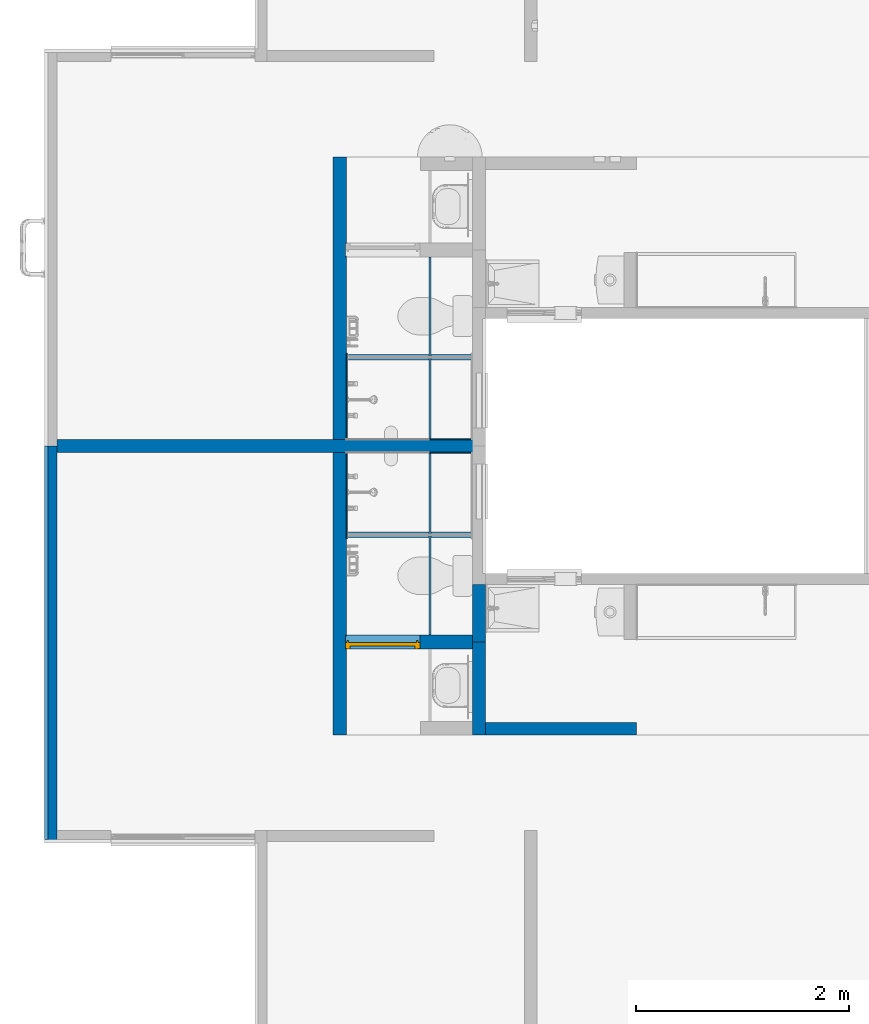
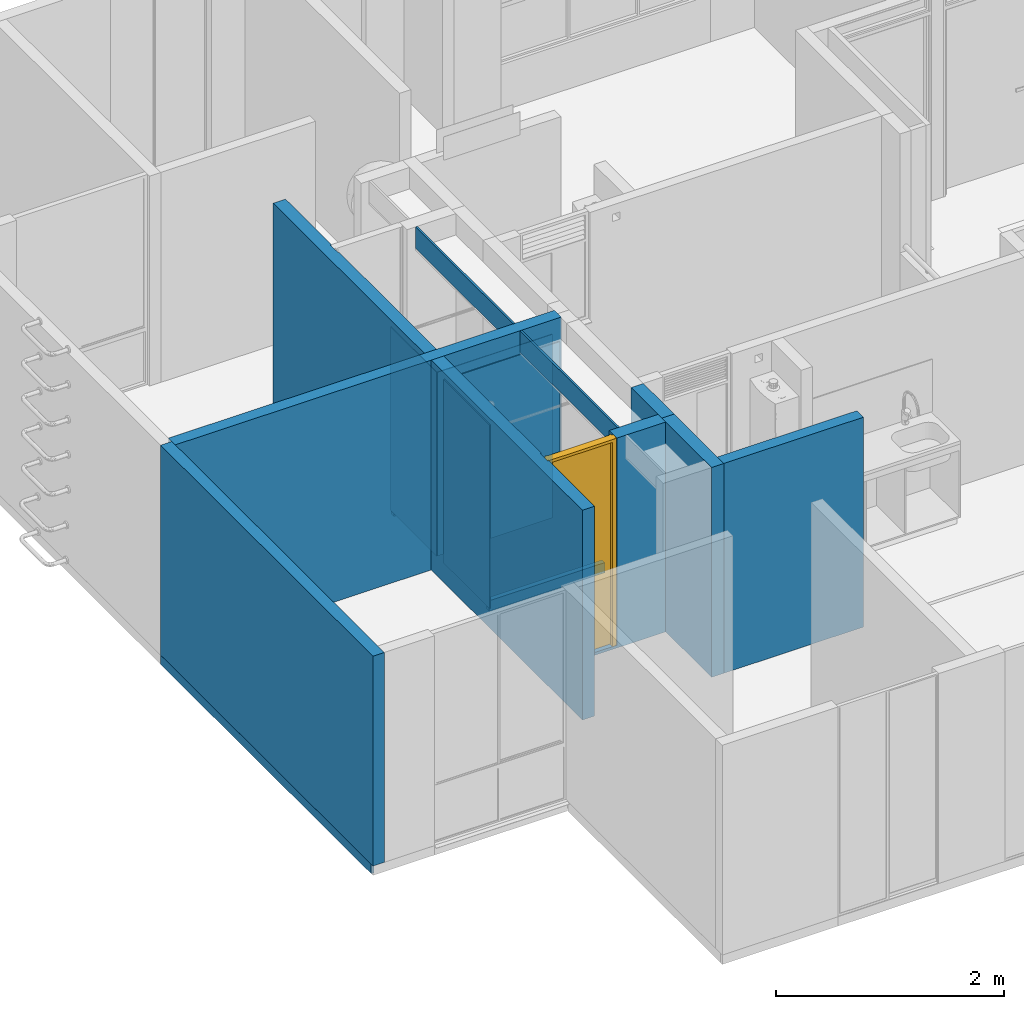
# One storey, part 7 of 51: 17 walls, 1 door, 3 openings.
"""IFC4 building model written with IfcOpenShell, lengths in metres."""

from ifc_helpers import new_model, entity, si_unit, converted_unit, derived_unit, direction, frame, origin, place, context, subcontext, project, spatial, indexed_curve, outline, extrude, polygons, source, transform, mapped, material, constituent, constituent_set, type_object, type_shapes, element, fill, save


model = new_model("IFC4")

# Units and contexts
model_context = context("Model", 3, precision=1e-05, world=origin(), true_north=direction((6.123031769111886e-17, 1.0)))
body_context = subcontext(model_context, "Body", "Model", "MODEL_VIEW")
ifc_project = project(units=[si_unit("LENGTHUNIT", "METRE"), si_unit("AREAUNIT", "SQUARE_METRE"), si_unit("VOLUMEUNIT", "CUBIC_METRE"), converted_unit("PLANEANGLEUNIT", "DEGREE", entity("IfcRatioMeasure", 0.017453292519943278), si_unit("PLANEANGLEUNIT", "RADIAN"), dimensions=[0, 0, 0, 0, 0, 0, 0]), si_unit("MASSUNIT", "GRAM", prefix="KILO"), derived_unit("MASSDENSITYUNIT", [(si_unit("MASSUNIT", "GRAM", prefix="KILO"), 1), (si_unit("LENGTHUNIT", "METRE"), -3)]), derived_unit("IONCONCENTRATIONUNIT", [(si_unit("MASSUNIT", "GRAM", prefix="KILO"), 1), (si_unit("LENGTHUNIT", "METRE"), -3)]), derived_unit("MOMENTOFINERTIAUNIT", [(si_unit("LENGTHUNIT", "METRE"), 4)]), si_unit("TIMEUNIT", "SECOND"), si_unit("FREQUENCYUNIT", "HERTZ"), si_unit("THERMODYNAMICTEMPERATUREUNIT", "DEGREE_CELSIUS"), derived_unit("THERMALTRANSMITTANCEUNIT", [(si_unit("MASSUNIT", "GRAM", prefix="KILO"), 1), (si_unit("THERMODYNAMICTEMPERATUREUNIT", "KELVIN"), -1), (si_unit("TIMEUNIT", "SECOND"), -3)]), derived_unit("THERMALCONDUCTANCEUNIT", [(si_unit("MASSUNIT", "GRAM", prefix="KILO"), 1), (si_unit("THERMODYNAMICTEMPERATUREUNIT", "KELVIN"), -1), (si_unit("TIMEUNIT", "SECOND"), -3), (si_unit("LENGTHUNIT", "METRE"), 1)]), derived_unit("VOLUMETRICFLOWRATEUNIT", [(si_unit("LENGTHUNIT", "METRE"), 3), (si_unit("TIMEUNIT", "SECOND"), -1)]), derived_unit("MASSFLOWRATEUNIT", [(si_unit("MASSUNIT", "GRAM", prefix="KILO"), 1), (si_unit("TIMEUNIT", "SECOND"), -1)]), derived_unit("ROTATIONALFREQUENCYUNIT", [(si_unit("TIMEUNIT", "SECOND"), -1)]), si_unit("ELECTRICCURRENTUNIT", "AMPERE"), si_unit("ELECTRICVOLTAGEUNIT", "VOLT"), si_unit("POWERUNIT", "WATT"), si_unit("FORCEUNIT", "NEWTON", prefix="KILO"), si_unit("ILLUMINANCEUNIT", "LUX"), si_unit("LUMINOUSFLUXUNIT", "LUMEN"), si_unit("LUMINOUSINTENSITYUNIT", "CANDELA"), derived_unit("USERDEFINED", [(si_unit("MASSUNIT", "GRAM", prefix="KILO"), -1), (si_unit("LENGTHUNIT", "METRE"), -2), (si_unit("TIMEUNIT", "SECOND"), 3), (si_unit("LUMINOUSFLUXUNIT", "LUMEN"), 1)]), derived_unit("USERDEFINED", [(si_unit("MASSUNIT", "GRAM", prefix="KILO"), 1), (si_unit("TIMEUNIT", "SECOND"), -3), (si_unit("LENGTHUNIT", "METRE"), 3), (si_unit("ELECTRICCURRENTUNIT", "AMPERE"), -2)]), derived_unit("SOUNDPOWERUNIT", [(si_unit("MASSUNIT", "GRAM", prefix="KILO"), 1), (si_unit("TIMEUNIT", "SECOND"), -3), (si_unit("LENGTHUNIT", "METRE"), 2)]), derived_unit("SOUNDPRESSUREUNIT", [(si_unit("MASSUNIT", "GRAM", prefix="KILO"), 1), (si_unit("LENGTHUNIT", "METRE"), -1), (si_unit("TIMEUNIT", "SECOND"), -2)]), derived_unit("LINEARVELOCITYUNIT", [(si_unit("LENGTHUNIT", "METRE"), 1), (si_unit("TIMEUNIT", "SECOND"), -1)]), si_unit("PRESSUREUNIT", "PASCAL"), derived_unit("USERDEFINED", [(si_unit("MASSUNIT", "GRAM", prefix="KILO"), 1), (si_unit("LENGTHUNIT", "METRE"), -2), (si_unit("TIMEUNIT", "SECOND"), -2)]), derived_unit("LINEARFORCEUNIT", [(si_unit("MASSUNIT", "GRAM", prefix="KILO"), 1), (si_unit("TIMEUNIT", "SECOND"), -2)]), derived_unit("PLANARFORCEUNIT", [(si_unit("MASSUNIT", "GRAM", prefix="KILO"), 1), (si_unit("LENGTHUNIT", "METRE"), -1), (si_unit("TIMEUNIT", "SECOND"), -2)]), derived_unit("SPECIFICHEATCAPACITYUNIT", [(si_unit("THERMODYNAMICTEMPERATUREUNIT", "KELVIN"), -1), (si_unit("LENGTHUNIT", "METRE"), 2), (si_unit("TIMEUNIT", "SECOND"), -2)]), derived_unit("HEATINGVALUEUNIT", [(si_unit("LENGTHUNIT", "METRE"), 2), (si_unit("TIMEUNIT", "SECOND"), -2)]), derived_unit("VAPORPERMEABILITYUNIT", [(si_unit("LENGTHUNIT", "METRE"), -1), (si_unit("TIMEUNIT", "SECOND"), 1)]), derived_unit("DYNAMICVISCOSITYUNIT", [(si_unit("MASSUNIT", "GRAM", prefix="KILO"), 1), (si_unit("TIMEUNIT", "SECOND"), -1), (si_unit("LENGTHUNIT", "METRE"), -1)]), derived_unit("THERMALEXPANSIONCOEFFICIENTUNIT", [(si_unit("THERMODYNAMICTEMPERATUREUNIT", "KELVIN"), -1)]), derived_unit("MODULUSOFELASTICITYUNIT", [(si_unit("MASSUNIT", "GRAM", prefix="KILO"), 1), (si_unit("LENGTHUNIT", "METRE"), -1), (si_unit("TIMEUNIT", "SECOND"), -2)]), derived_unit("ISOTHERMALMOISTURECAPACITYUNIT", [(si_unit("LENGTHUNIT", "METRE"), 3), (si_unit("MASSUNIT", "GRAM", prefix="KILO"), -1)]), derived_unit("MOISTUREDIFFUSIVITYUNIT", [(si_unit("TIMEUNIT", "SECOND"), -1), (si_unit("LENGTHUNIT", "METRE"), 2)])], contexts=[model_context])

# Site, building, storey
site_placement = place(None, origin())
site = spatial("IfcSite", under=ifc_project, at=site_placement, Name="Default", CompositionType="ELEMENT")
building_placement = place(site_placement, origin())
building = spatial("IfcBuilding", under=site, at=building_placement, CompositionType="ELEMENT")
storey_placement = place(building_placement, frame((0.0, 0.0, 2.350000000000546)))
storey = spatial("IfcBuildingStorey", under=building, at=storey_placement, Name="Nivel 2", CompositionType="ELEMENT", Elevation=2.350000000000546)

# Walls
ifc_material_1 = material(Name="Concreto (Aire)", Category="Materials")
wall_type_1 = type_object("IfcWallType", Name="Basic Wall:B2010 - 0.12m - Muro interior en concreto", PredefinedType="STANDARD")
wall_1_placement = place(storey_placement, frame((0.057499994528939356, -6.425000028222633, 0.0)))
element("IfcWall", 1, at=wall_1_placement, inside=storey, type_object=wall_type_1, material=ifc_material_1, Name="Basic Wall:B2010 - 0.12m - Muro interior en concreto", ObjectType="Basic Wall:B2010 - 0.12m - Muro interior en concreto", PredefinedType="NOTDEFINED", context=body_context, shape_type="SweptSolid", body=[
    extrude(outline(indexed_curve([(3.915, 0.06000000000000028), (-2.183027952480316e-18, 0.060000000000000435), (2.183027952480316e-18, -0.060000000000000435), (3.915, -0.06000000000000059), (3.915, 0.06000000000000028)], self_intersect=False)), origin(), (0.0, 0.0, 1.0), 2.2500000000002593),
])
ifc_material_2 = material(Name="Ladrillo claro (Aire)", Category="Materials")
wall_type_2 = type_object("IfcWallType", Name="Basic Wall:B2010 - 0.115m - Muro exterior en mampostería - Ladrillo", PredefinedType="STANDARD")
wall_2_placement = place(storey_placement, frame((0.0, -10.15500002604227, 0.0), z_axis=(0.0, 0.0, 1.0), x_axis=(0.0, 1.0, 0.0)))
element("IfcWall", 2, at=wall_2_placement, inside=storey, type_object=wall_type_2, material=ifc_material_2, Name="Basic Wall:B2010 - 0.115m - Muro exterior en mampostería - Ladrillo", ObjectType="Basic Wall:B2010 - 0.115m - Muro exterior en mampostería - Ladrillo", PredefinedType="NOTDEFINED", context=body_context, shape_type="SweptSolid", body=[
    extrude(outline(indexed_curve([(3.7299999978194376, 0.0575), (-4.594741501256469e-16, 0.0575), (4.594741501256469e-16, -0.0575), (3.7299999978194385, -0.0575), (3.7299999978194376, 0.0575)], self_intersect=False)), origin(), (0.0, 0.0, 1.0), 2.2500000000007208),
])
wall_type_3 = type_object("IfcWallType", Name="Basic Wall:B2010 - 0.115m - Muro interior en mampostería - Ladrillo", PredefinedType="STANDARD")
wall_3_placement = place(storey_placement, frame((4.087499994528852, -9.082499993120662, 0.0)))
element("IfcWall", 3, at=wall_3_placement, inside=storey, type_object=wall_type_3, material=ifc_material_2, Name="Basic Wall:B2010 - 0.115m - Muro interior en mampostería - Ladrillo", ObjectType="Basic Wall:B2010 - 0.115m - Muro interior en mampostería - Ladrillo", PredefinedType="NOTDEFINED", context=body_context, shape_type="SweptSolid", body=[
    extrude(outline(indexed_curve([(1.414999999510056, 0.05749999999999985), (-1.7283953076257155e-16, 0.057499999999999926), (1.7283953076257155e-16, -0.057499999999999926), (1.4149999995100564, -0.0575), (1.414999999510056, 0.05749999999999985)], self_intersect=False)), origin(), (0.0, 0.0, 1.0), 2.2499999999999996),
])

# Wall, opening
ifc_material_3 = material(Name="Pañete", Category="Materials")
ifc_constituent_1 = constituent(ifc_material_3, Name="Pañete", Category="Materials")
ifc_constituent_2 = constituent(ifc_material_2, Name="Ladrillo claro (Aire)", Category="Materials")
ifc_constituent_set_1 = constituent_set(constituents=[ifc_constituent_1, ifc_constituent_2], Name="Basic Wall:B2010 - 0.115m - Muro interior en mampostería - Ladrillo + Pañete")
wall_type_4 = type_object("IfcWallType", Name="Basic Wall:B2010 - 0.115m - Muro interior en mampostería - Ladrillo + Pañete", PredefinedType="STANDARD", material=ifc_constituent_set_1)
wall_4_placement = place(storey_placement, frame((2.7150010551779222, -3.7100000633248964, 0.0), z_axis=(0.0, 0.0, 1.0), x_axis=(0.0, -1.0, 0.0)))
wall_4 = element("IfcWall", 4, at=wall_4_placement, inside=storey, type_object=wall_type_4, material=ifc_constituent_set_1, Name="Basic Wall:B2010 - 0.115m - Muro interior en mampostería - Ladrillo + Pañete", ObjectType="Basic Wall:B2010 - 0.115m - Muro interior en mampostería - Ladrillo + Pañete", PredefinedType="NOTDEFINED", context=body_context, shape_type="SweptSolid", body=[
    extrude(outline(indexed_curve([(-1.132499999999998, -1.0999999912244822), (1.1175000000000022, -1.0999999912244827), (1.1174999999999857, -0.294999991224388), (-1.1024999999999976, -0.29499999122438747), (-1.1024999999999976, -0.15999999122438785), (1.1175000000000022, -0.1599999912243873), (1.1175000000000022, 1.5549999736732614), (-1.132499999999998, 1.5549999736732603), (-1.132499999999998, -1.0999999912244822)], self_intersect=False)), frame((1.0999999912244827, 0.0524999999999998, 1.1324999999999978), z_axis=(0.0, 1.0, 0.0), x_axis=(0.0, 0.0, 1.0)), (0.0, 0.0, 1.0), 0.009999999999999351),
    extrude(outline(indexed_curve([(-0.05750000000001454, -1.3274999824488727), (0.05749999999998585, -1.3274999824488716), (0.05750000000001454, 1.327499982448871), (-0.057499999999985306, 1.3274999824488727), (-0.05750000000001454, -1.3274999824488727)], self_intersect=False)), frame((1.3274999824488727, -0.005000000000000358, 0.0), z_axis=(0.0, 0.0, 1.0), x_axis=(0.0, 1.0, 0.0)), (0.0, 0.0, 1.0), 2.25),
])
opening_1_placement = place(wall_4_placement, origin())
element("IfcOpeningElement", 5, at=opening_1_placement, cuts=wall_4, Name="Basic Wall:B2010 - 0.115m - Muro interior en mampostería - Ladrillo + Pañete", PredefinedType="OPENING", context=body_context, shape_type="SweptSolid", body=[
    extrude(outline(indexed_curve([(-0.06749999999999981, -1.1099999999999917), (0.06750000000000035, -1.1099999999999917), (0.06750000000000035, 1.1099999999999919), (-0.06749999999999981, 1.1099999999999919), (-0.06749999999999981, -1.1099999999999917)], self_intersect=False)), frame((0.8725000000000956, 0.05249999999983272, 1.139999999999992), z_axis=(0.0, 1.0, 0.0), x_axis=(-1.0, 0.0, 0.0)), (0.0, 0.0, 1.0), 0.7000000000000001),
])

wall_5_placement = place(storey_placement, frame((2.715001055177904, -9.139999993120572, 0.0), z_axis=(0.0, 0.0, 1.0), x_axis=(0.0, 1.0, 0.0)))
wall_5 = element("IfcWall", 6, at=wall_5_placement, inside=storey, type_object=wall_type_4, material=ifc_constituent_set_1, Name="Basic Wall:B2010 - 0.115m - Muro interior en mampostería - Ladrillo + Pañete", ObjectType="Basic Wall:B2010 - 0.115m - Muro interior en mampostería - Ladrillo + Pañete", PredefinedType="NOTDEFINED", context=body_context, shape_type="SweptSolid", body=[
    extrude(outline(indexed_curve([(-1.132499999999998, -1.5549999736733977), (1.1175000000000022, -1.5549999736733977), (1.1174999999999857, 0.1599999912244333), (-1.1024999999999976, 0.15999999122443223), (-1.1024999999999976, 0.29499999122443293), (1.1175000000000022, 0.2949999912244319), (1.1175000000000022, 1.0999999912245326), (-1.132499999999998, 1.0999999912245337), (-1.132499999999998, -1.5549999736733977)], self_intersect=False)), frame((1.0999999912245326, -0.05249999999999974, 1.1324999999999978), z_axis=(0.0, -1.0, 0.0), x_axis=(0.0, 0.0, 1.0)), (0.0, 0.0, 1.0), 0.009999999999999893),
    extrude(outline(indexed_curve([(-0.05750000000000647, -1.3274999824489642), (0.057499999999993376, -1.3274999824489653), (0.05750000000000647, 1.3274999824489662), (-0.057499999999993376, 1.3274999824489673), (-0.05750000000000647, -1.3274999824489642)], self_intersect=False)), frame((1.3274999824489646, 0.004999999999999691, 0.0), z_axis=(0.0, 0.0, 1.0), x_axis=(0.0, -1.0, 0.0)), (0.0, 0.0, 1.0), 2.25),
])
opening_2_placement = place(wall_5_placement, origin())
element("IfcOpeningElement", 7, at=opening_2_placement, cuts=wall_5, Name="Basic Wall:B2010 - 0.115m - Muro interior en mampostería - Ladrillo + Pañete", PredefinedType="OPENING", context=body_context, shape_type="SweptSolid", body=[
    extrude(outline(indexed_curve([(-0.06749999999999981, -1.1099999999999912), (0.06749999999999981, -1.1099999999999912), (0.06749999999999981, 1.1099999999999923), (-0.06749999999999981, 1.109999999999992), (-0.06749999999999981, -1.1099999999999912)], self_intersect=False)), frame((0.8725000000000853, -0.7524999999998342, 1.1399999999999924), z_axis=(0.0, 1.0, 0.0), x_axis=(1.0, 0.0, 0.0)), (0.0, 0.0, 1.0), 0.7000000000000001),
])

# Wall, opening, door
ifc_constituent_3 = constituent(ifc_material_3, Name="Pañete", Category="Materials")
ifc_material_4 = material(Name="LADRILLO CLARO", Category="Materials")
ifc_constituent_4 = constituent(ifc_material_4, Name="LADRILLO CLARO", Category="Materials")
ifc_constituent_5 = constituent(ifc_material_3, Name="Pañete (2)", Category="Materials")
ifc_constituent_set_2 = constituent_set(constituents=[ifc_constituent_3, ifc_constituent_4, ifc_constituent_5], Name="Basic Wall:B2010 - 0.115m - MI  mampostería no estructural - Pañete + Ladrillo + Pañete")
wall_type_5 = type_object("IfcWallType", Name="Basic Wall:B2010 - 0.115m - MI  mampostería no estructural - Pañete + Ladrillo + Pañete", PredefinedType="STANDARD", material=ifc_constituent_set_2)
wall_6_placement = place(storey_placement, frame((3.9624999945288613, -8.26749999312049, 0.0), z_axis=(0.0, 0.0, 1.0), x_axis=(-1.0, 0.0, 0.0)))
wall_6 = element("IfcWall", 8, at=wall_6_placement, inside=storey, type_object=wall_type_5, material=ifc_constituent_set_2, Name="Basic Wall:B2010 - 0.115m - MI  mampostería no estructural - Pañete + Ladrillo + Pañete", ObjectType="Basic Wall:B2010 - 0.115m - MI  mampostería no estructural - Pañete + Ladrillo + Pañete", PredefinedType="NOTDEFINED", context=body_context, shape_type="SweptSolid", body=[
    extrude(outline(indexed_curve([(-0.7600000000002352, -0.6249996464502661), (-0.7300000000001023, -0.6249996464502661), (-0.7300000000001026, 0.06500035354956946), (1.4900000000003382, 0.06500035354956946), (1.4900000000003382, 0.559999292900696), (-0.7600000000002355, 0.5599992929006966), (-0.7600000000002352, -0.6249996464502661)], self_intersect=False)), frame((0.5599992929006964, -0.057499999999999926, 0.7600000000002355), z_axis=(0.0, -1.0, 0.0), x_axis=(0.0, 0.0, 1.0)), (0.0, 0.0, 1.0), 0.009999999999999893),
    extrude(outline(indexed_curve([(-1.1325000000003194, -0.6649994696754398), (-1.1025000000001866, -0.6649994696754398), (-1.1025000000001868, 0.02500053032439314), (1.1175000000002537, 0.02500053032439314), (1.1175000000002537, 0.10999946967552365), (1.1175000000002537, 0.12999946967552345), (1.1175000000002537, 0.5199994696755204), (-1.1325000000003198, 0.5199994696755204), (-1.1325000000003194, -0.6649994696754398)], self_intersect=False)), frame((0.5199994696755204, 0.06749999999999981, 1.1325000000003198), z_axis=(0.0, -1.0, 0.0), x_axis=(0.0, 0.0, 1.0)), (0.0, 0.0, 1.0), 0.009999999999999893),
    extrude(outline(indexed_curve([(-0.7600000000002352, -0.6316663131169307), (-0.7300000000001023, -0.6316663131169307), (-0.7300000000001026, 0.06833368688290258), (1.4900000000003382, 0.06833368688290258), (1.4900000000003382, 0.5633326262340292), (-0.7600000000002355, 0.5633326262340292), (-0.7600000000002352, -0.6316663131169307)], self_intersect=False)), frame((0.5633326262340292, 0.057499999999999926, 0.7600000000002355), z_axis=(0.0, -1.0, 0.0), x_axis=(0.0, 0.0, 1.0)), (0.0, 0.0, 1.0), 0.11499999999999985),
])
opening_3_placement = place(wall_6_placement, frame((1.1949989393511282, 0.06749999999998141, 0.030000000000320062)))
opening_3 = element("IfcOpeningElement", 9, at=opening_3_placement, cuts=wall_6, Name="C1030 - Puerta batiente - Madera+Aluminio:C1030 - 0.70 x 2.22 - Puerta batiente - Madera+ Metal:1", PredefinedType="OPENING", context=body_context, shape_type="SweptSolid", body=[
    extrude(outline(indexed_curve([(1.438182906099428e-16, 0.7000000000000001), (1.438182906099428e-16, 0.0), (2.2199999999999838, 0.0), (2.2199999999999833, 0.7000000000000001), (1.438182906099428e-16, 0.7000000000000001)], self_intersect=False)), frame((0.0, 0.0, 0.0), z_axis=(0.0, -1.0, 0.0), x_axis=(0.0, 0.0, 1.0)), (0.0, 0.0, 1.0), 0.13499999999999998),
])
ifc_material_5 = material(Name="<Unnamed>")
door_type = type_object("IfcDoorType", Name="C1030 - Puerta batiente - Madera+Aluminio:C1030 - 0.70 x 2.22 - Puerta batiente - Madera+ Metal", OperationType="SINGLE_SWING_LEFT", PredefinedType="DOOR", material=ifc_material_5)
shared_shape = source(origin(), body_context, "Body", "Tessellation", [
    polygons([(0.6699999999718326, 0.06499999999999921, 0.009880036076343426), (0.6699999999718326, 0.0324999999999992, 0.009880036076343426), (0.030000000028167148, 0.0324999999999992, 0.009880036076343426), (0.030000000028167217, 0.06499999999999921, 0.009880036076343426), (0.6699999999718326, 0.06499999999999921, 2.2050000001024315), (0.6699999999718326, 0.0324999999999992, 2.2050000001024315), (0.030000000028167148, 0.0324999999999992, 2.2050000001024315), (0.030000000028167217, 0.06499999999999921, 2.2050000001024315)], [[[1, 2, 3, 4]], [[5, 6, 2, 1]], [[6, 7, 3, 2]], [[7, 8, 4, 3]], [[8, 5, 1, 4]], [[5, 8, 7, 6]]], closed=True),
    polygons([(0.6849999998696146, 0.0649999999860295, 0.0), (0.7, 0.0649999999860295, 0.0), (0.7, 0.0074999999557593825, 0.0), (0.6849999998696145, 0.007499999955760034, 0.0), (0.6849999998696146, -5.075939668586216e-17, 0.0), (0.6549999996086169, -1.6919798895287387e-17, 0.0), (0.6549999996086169, 0.04000000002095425, 0.0), (0.6699999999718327, 0.04000000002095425, 0.0), (0.6699999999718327, 0.07999999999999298, 0.0), (0.6849999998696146, 0.07999999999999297, 0.0), (0.7, 0.0074999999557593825, 2.2199999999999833), (0.6849999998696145, 0.007499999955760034, 2.2199999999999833), (0.6849999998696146, 0.0649999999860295, 2.2199999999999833), (0.7, 0.0649999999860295, 2.2199999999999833), (0.015000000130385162, 0.06499999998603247, 0.0), (0.015000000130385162, 0.07999999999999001, 0.0), (0.030000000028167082, 0.07999999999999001, 0.0), (0.030000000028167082, 0.04000000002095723, 0.0), (0.04500000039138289, 0.04000000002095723, 0.0), (0.04500000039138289, 0.0, 0.0), (0.01500000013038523, 0.0, 0.0), (0.015000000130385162, 0.007499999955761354, 0.0), (0.0, 0.007499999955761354, 0.0), (0.0, 0.06499999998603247, 0.0), (0.0, 0.06499999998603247, 2.2199999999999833), (0.015000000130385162, 0.06499999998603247, 2.2199999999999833), (0.015000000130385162, 0.007499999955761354, 2.2199999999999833), (0.0, 0.007499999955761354, 2.2199999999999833), (0.04500000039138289, 0.04000000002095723, 2.2050000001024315), (0.04500000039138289, 0.03250000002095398, 2.2050000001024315), (0.04500000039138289, 0.03250000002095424, 2.189999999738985), (0.04500000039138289, 0.0, 2.189999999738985), (0.6549999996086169, -1.6919798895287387e-17, 2.189999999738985), (0.6549999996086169, 0.032500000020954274, 2.189999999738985), (0.6549999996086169, 0.03250000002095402, 2.2050000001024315), (0.6549999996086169, 0.04000000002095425, 2.2050000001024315), (0.030000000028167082, 0.07999999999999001, 2.2199999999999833), (0.030000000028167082, 0.07249999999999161, 2.2199999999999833), (0.030000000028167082, 0.07249999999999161, 2.2050000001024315), (0.030000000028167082, 0.04000000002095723, 2.2050000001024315), (0.6699999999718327, 0.04000000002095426, 2.2050000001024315), (0.6699999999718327, 0.07249999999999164, 2.2050000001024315), (0.6699999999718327, 0.07249999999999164, 2.2199999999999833), (0.6699999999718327, 0.07999999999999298, 2.2199999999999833), (0.015000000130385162, 0.07999999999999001, 2.2199999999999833), (0.6849999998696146, -5.075939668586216e-17, 2.2199999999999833), (0.01500000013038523, 0.0, 2.2199999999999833), (0.6849999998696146, 0.07999999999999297, 2.2199999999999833)], [[[1, 2, 3, 4, 5, 6, 7, 8, 9, 10]], [[11, 12, 4, 3]], [[13, 14, 2, 1]], [[15, 16, 17, 18, 19, 20, 21, 22, 23, 24]], [[25, 26, 15, 24]], [[27, 28, 23, 22]], [[20, 19, 29, 30, 31, 32]], [[7, 6, 33, 34, 35, 36]], [[18, 17, 37, 38, 39, 40]], [[9, 8, 41, 42, 43, 44]], [[28, 25, 24, 23]], [[14, 11, 3, 2]], [[26, 45, 16, 15]], [[45, 37, 17, 16]], [[19, 18, 40, 29]], [[21, 20, 32, 33, 6, 5, 46, 47]], [[47, 27, 22, 21]], [[12, 46, 5, 4]], [[48, 13, 1, 10]], [[26, 25, 28, 27, 47, 46, 12, 11, 14, 13, 48, 44, 43, 38, 37, 45]], [[39, 42, 41, 36, 35, 30, 29, 40]], [[33, 32, 31, 34]], [[8, 7, 36, 41]], [[44, 48, 10, 9]], [[34, 31, 30, 35]], [[42, 39, 38, 43]]], closed=True),
])
type_shapes(door_type, [shared_shape])
door_placement = place(opening_3_placement, frame((0.0, 0.0, 0.0), z_axis=(0.0, 0.0, 1.0), x_axis=(-1.0, 0.0, 0.0)))
door = element("IfcDoor", 10, at=door_placement, inside=storey, type_object=door_type, material=ifc_material_5, Name="C1030 - Puerta batiente - Madera+Aluminio:C1030 - 0.70 x 2.22 - Puerta batiente - Madera+ Metal", ObjectType="C1030 - Puerta batiente - Madera+Aluminio:C1030 - 0.70 x 2.22 - Puerta batiente - Madera+ Metal", OperationType="SINGLE_SWING_LEFT", OverallHeight=2.2199999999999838, OverallWidth=0.7000000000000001, PredefinedType="DOOR", context=body_context, shape_type="MappedRepresentation", body=[
    mapped(shared_shape, transform((0.0, 0.0, 0.0), scale=1.0)),
])
fill(opening_3, door)

# Walls
ifc_material_6 = material(Name="Pañete, estuco y pintura", Category="Materials")
ifc_constituent_6 = constituent(ifc_material_6, Name="Pañete, estuco y pintura", Category="Materials")
ifc_constituent_7 = constituent(ifc_material_2, Name="Ladrillo claro (Aire)", Category="Materials")
ifc_constituent_set_3 = constituent_set(constituents=[ifc_constituent_6, ifc_constituent_7], Name="Basic Wall:B2010 - 0.115m - Muro interior en mampostería - Ladrillo + Pañete+ estuco+ pintura")
wall_type_6 = type_object("IfcWallType", Name="Basic Wall:B2010 - 0.115m - Muro interior en mampostería - Ladrillo + Pañete+ estuco+ pintura", PredefinedType="STANDARD", material=ifc_constituent_set_3)
wall_7_placement = place(storey_placement, frame((4.024999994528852, -9.13999999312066, 0.0), z_axis=(0.0, 0.0, 1.0), x_axis=(0.0, 1.0, 0.0)))
element("IfcWall", 11, at=wall_7_placement, inside=storey, type_object=wall_type_6, material=ifc_constituent_set_3, Name="Basic Wall:B2010 - 0.115m - Muro interior en mampostería - Ladrillo + Pañete+ estuco+ pintura", ObjectType="Basic Wall:B2010 - 0.115m - Muro interior en mampostería - Ladrillo + Pañete+ estuco+ pintura", PredefinedType="NOTDEFINED", context=body_context, shape_type="SweptSolid", body=[
    extrude(outline(indexed_curve([(-0.3591666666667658, -0.003333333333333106), (0.32083333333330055, -0.0033333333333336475), (0.44583333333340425, -0.003333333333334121), (0.4458333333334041, 0.006666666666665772), (-0.4266666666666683, 0.006666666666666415), (-0.42666666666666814, -0.0033333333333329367), (-0.3591666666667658, -0.003333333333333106)], self_intersect=False)), frame((0.44583333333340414, 0.059166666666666, 0.0), z_axis=(0.0, 0.0, 1.0), x_axis=(-1.0, 0.0, 0.0)), (0.0, 0.0, 1.0), 2.2499999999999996),
    extrude(outline(indexed_curve([(-0.25700000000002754, -0.046000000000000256), (0.5005000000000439, -0.046000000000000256), (0.5005000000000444, 0.06900000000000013), (-0.372000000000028, 0.0690000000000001), (-0.37200000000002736, -0.045999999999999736), (-0.25700000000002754, -0.046000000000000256)], self_intersect=False)), frame((0.37200000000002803, -0.01650000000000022, 0.0)), (0.0, 0.0, 1.0), 2.2499999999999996),
])
wall_8_placement = place(storey_placement, frame((4.024999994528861, -8.267499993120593, 0.0), z_axis=(0.0, 0.0, 1.0), x_axis=(0.0, 1.0, 0.0)))
element("IfcWall", 12, at=wall_8_placement, inside=storey, type_object=wall_type_6, material=ifc_constituent_set_3, Name="Basic Wall:B2010 - 0.115m - Muro interior en mampostería - Ladrillo + Pañete+ estuco+ pintura", ObjectType="Basic Wall:B2010 - 0.115m - Muro interior en mampostería - Ladrillo + Pañete+ estuco+ pintura", PredefinedType="NOTDEFINED", context=body_context, shape_type="SweptSolid", body=[
    extrude(outline(indexed_curve([(0.16280569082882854, -0.004000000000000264), (0.23030569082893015, -0.004000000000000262), (0.23030569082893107, 0.0059999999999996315), (-0.3117085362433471, 0.00599999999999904), (-0.31170853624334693, -0.004000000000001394), (0.16280569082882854, -0.004000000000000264)], self_intersect=False)), frame((0.23030569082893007, 0.058499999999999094, 0.0), z_axis=(0.0, 0.0, 1.0), x_axis=(-1.0, 0.0, 0.0)), (0.0, 0.0, 1.0), 2.2499999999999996),
    extrude(outline(indexed_curve([(-0.12467143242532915, -0.03833333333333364), (-0.0906714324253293, -0.03833333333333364), (0.32484282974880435, -0.03833333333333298), (0.3248428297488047, 0.07666666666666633), (-0.21717139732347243, 0.07666666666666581), (-0.21717139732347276, -0.03833333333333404), (-0.12467143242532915, -0.03833333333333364)], self_intersect=False)), frame((0.2171713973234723, -0.024166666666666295, 0.0)), (0.0, 0.0, 1.0), 2.2499999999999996),
])
ifc_material_7 = material(Name="Ceramica 0.25m x 0.35m", Category="Materials")
wall_type_7 = type_object("IfcWallType", Name="Basic Wall:C2010 - 0.25 x 0.35 - Enchape cerámico", PredefinedType="STANDARD")
wall_9_placement = place(storey_placement, frame((2.7825010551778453, -6.365000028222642, 0.030000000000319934), z_axis=(0.0, 0.0, 1.0), x_axis=(0.0, 1.0, 0.0)))
element("IfcWall", 13, at=wall_9_placement, inside=storey, type_object=wall_type_7, material=ifc_material_7, Name="Basic Wall:C2010 - 0.25 x 0.35 - Enchape cerámico", ObjectType="Basic Wall:C2010 - 0.25 x 0.35 - Enchape cerámico", PredefinedType="NOTDEFINED", context=body_context, shape_type="SweptSolid", body=[
    extrude(outline(indexed_curve([(0.8099999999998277, 0.00500000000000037), (-3.269267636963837e-17, 0.004999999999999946), (3.269267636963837e-17, -0.004999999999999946), (0.8099999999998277, -0.004999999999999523), (0.8099999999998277, 0.00500000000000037)], self_intersect=False)), origin(), (0.0, 0.0, 1.0), 1.9699999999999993),
])
wall_10_placement = place(storey_placement, frame((2.787501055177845, -6.360000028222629, 0.03000000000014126)))
element("IfcWall", 14, at=wall_10_placement, inside=storey, type_object=wall_type_7, material=ifc_material_7, Name="Basic Wall:C2010 - 0.25 x 0.35 - Enchape cerámico", ObjectType="Basic Wall:C2010 - 0.25 x 0.35 - Enchape cerámico", PredefinedType="NOTDEFINED", context=body_context, shape_type="SweptSolid", body=[
    extrude(outline(indexed_curve([(1.1649989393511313, 0.004999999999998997), (-2.3810892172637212e-17, 0.004999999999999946), (2.3810892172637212e-17, -0.004999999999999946), (1.1649989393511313, -0.005000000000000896), (1.1649989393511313, 0.004999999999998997)], self_intersect=False)), origin(), (0.0, 0.0, 1.0), 1.9700000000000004),
])
wall_11_placement = place(storey_placement, frame((2.782501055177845, -6.485000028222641, 0.030000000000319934), z_axis=(0.0, 0.0, 1.0), x_axis=(0.0, -1.0, 0.0)))
element("IfcWall", 15, at=wall_11_placement, inside=storey, type_object=wall_type_7, material=ifc_material_7, Name="Basic Wall:C2010 - 0.25 x 0.35 - Enchape cerámico", ObjectType="Basic Wall:C2010 - 0.25 x 0.35 - Enchape cerámico", PredefinedType="NOTDEFINED", context=body_context, shape_type="SweptSolid", body=[
    extrude(outline(indexed_curve([(0.8100000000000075, 0.004999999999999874), (4.468811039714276e-19, 0.004999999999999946), (-4.468811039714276e-19, -0.004999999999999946), (0.8100000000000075, -0.005000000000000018), (0.8100000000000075, 0.004999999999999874)], self_intersect=False)), origin(), (0.0, 0.0, 1.0), 1.9699999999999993),
])
wall_12_placement = place(storey_placement, frame((2.7875010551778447, -6.490000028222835, 0.03000000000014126)))
element("IfcWall", 16, at=wall_12_placement, inside=storey, type_object=wall_type_7, material=ifc_material_7, Name="Basic Wall:C2010 - 0.25 x 0.35 - Enchape cerámico", ObjectType="Basic Wall:C2010 - 0.25 x 0.35 - Enchape cerámico", PredefinedType="NOTDEFINED", context=body_context, shape_type="SweptSolid", body=[
    extrude(outline(indexed_curve([(1.1649989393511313, 0.004999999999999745), (-8.43490309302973e-18, 0.004999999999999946), (8.43490309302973e-18, -0.004999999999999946), (1.1649989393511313, -0.0050000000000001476), (1.1649989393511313, 0.004999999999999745)], self_intersect=False)), origin(), (0.0, 0.0, 1.0), 1.9700000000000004),
])
ifc_material_8 = material(Name="0 muro divisorio", Category="Materials")
wall_type_8 = type_object("IfcWallType", Name="Basic Wall:B2010 - 0.05m - Poyo para duchas - Concreto", PredefinedType="STANDARD")
wall_13_placement = place(storey_placement, frame((2.777501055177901, -5.590000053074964, 0.0)))
element("IfcWall", 17, at=wall_13_placement, inside=storey, type_object=wall_type_8, material=ifc_material_8, Name="Basic Wall:B2010 - 0.05m - Poyo para duchas - Concreto", ObjectType="Basic Wall:B2010 - 0.05m - Poyo para duchas - Concreto", PredefinedType="NOTDEFINED", context=body_context, shape_type="SweptSolid", body=[
    extrude(outline(indexed_curve([(1.1749989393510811, 0.02499999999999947), (7.46625923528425e-17, 0.02499999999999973), (-7.46625923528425e-17, -0.02499999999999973), (1.1749989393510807, -0.024999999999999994), (1.1749989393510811, 0.02499999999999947)], self_intersect=False)), origin(), (0.0, 0.0, 1.0), 0.11000000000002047),
])
wall_14_placement = place(storey_placement, frame((2.777501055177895, -7.260000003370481, 0.0)))
element("IfcWall", 18, at=wall_14_placement, inside=storey, type_object=wall_type_8, material=ifc_material_8, Name="Basic Wall:B2010 - 0.05m - Poyo para duchas - Concreto", ObjectType="Basic Wall:B2010 - 0.05m - Poyo para duchas - Concreto", PredefinedType="NOTDEFINED", context=body_context, shape_type="SweptSolid", body=[
    extrude(outline(indexed_curve([(1.1749989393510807, 0.025000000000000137), (-7.772420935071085e-17, 0.02499999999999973), (7.772420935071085e-17, -0.02499999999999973), (1.1749989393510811, -0.024999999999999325), (1.1749989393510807, 0.025000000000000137)], self_intersect=False)), origin(), (0.0, 0.0, 1.0), 0.11000000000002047),
])
ifc_material_9 = material(Name="Plasterboard", Category="Materials")
wall_type_9 = type_object("IfcWallType", Name="Basic Wall:C1070 - 0.02m - Plafón - Drywall", PredefinedType="STANDARD")
wall_15_placement = place(storey_placement, frame((3.5624999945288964, -6.365000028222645, 2.0200000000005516), z_axis=(0.0, 0.0, 1.0), x_axis=(0.0, 1.0, 0.0)))
element("IfcWall", 19, at=wall_15_placement, inside=storey, type_object=wall_type_9, material=ifc_material_9, Name="Basic Wall:C1070 - 0.02m - Plafón - Drywall", ObjectType="Basic Wall:C1070 - 0.02m - Plafón - Drywall", PredefinedType="NOTDEFINED", context=body_context, shape_type="SweptSolid", body=[
    extrude(outline(indexed_curve([(1.71499996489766, 0.00999999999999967), (7.706224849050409e-17, 0.009999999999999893), (-7.706224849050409e-17, -0.009999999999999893), (1.71499996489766, -0.010000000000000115), (1.71499996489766, 0.00999999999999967)], self_intersect=False)), origin(), (0.0, 0.0, 1.0), 0.23000000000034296),
])
wall_16_placement = place(storey_placement, frame((3.5624999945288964, -6.485000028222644, 2.0200000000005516), z_axis=(0.0, 0.0, 1.0), x_axis=(0.0, -1.0, 0.0)))
element("IfcWall", 20, at=wall_16_placement, inside=storey, type_object=wall_type_9, material=ifc_material_9, Name="Basic Wall:C1070 - 0.02m - Plafón - Drywall", ObjectType="Basic Wall:C1070 - 0.02m - Plafón - Drywall", PredefinedType="NOTDEFINED", context=body_context, shape_type="SweptSolid", body=[
    extrude(outline(indexed_curve([(1.7149999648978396, 0.009999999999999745), (-1.4120029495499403e-16, 0.009999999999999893), (1.4120029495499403e-16, -0.009999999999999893), (1.71499996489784, -0.01000000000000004), (1.7149999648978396, 0.009999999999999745)], self_intersect=False)), origin(), (0.0, 0.0, 1.0), 0.23000000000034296),
])
wall_type_10 = type_object("IfcWallType", Name="Basic Wall:B2010 - 0.03m - ME enchape  no estructural - Ladrillo", PredefinedType="STANDARD")
wall_17_placement = place(storey_placement, frame((-0.04249999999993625, -10.125000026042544, -0.10000000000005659), z_axis=(0.0, 0.0, 1.0), x_axis=(0.0, 1.0, 0.0)))
element("IfcWall", 21, at=wall_17_placement, inside=storey, type_object=wall_type_10, material=ifc_material_4, Name="Basic Wall:B2010 - 0.03m - ME enchape  no estructural - Ladrillo", ObjectType="Basic Wall:B2010 - 0.03m - ME enchape  no estructural - Ladrillo", PredefinedType="NOTDEFINED", context=body_context, shape_type="SweptSolid", body=[
    extrude(outline(indexed_curve([(3.699999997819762, 0.015000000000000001), (2.6129816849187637e-17, 0.015), (-2.6129816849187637e-17, -0.015), (3.699999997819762, -0.015000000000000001), (3.699999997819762, 0.015000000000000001)], self_intersect=False)), origin(), (0.0, 0.0, 1.0), 0.1),
])

save(model, "model.ifc")
